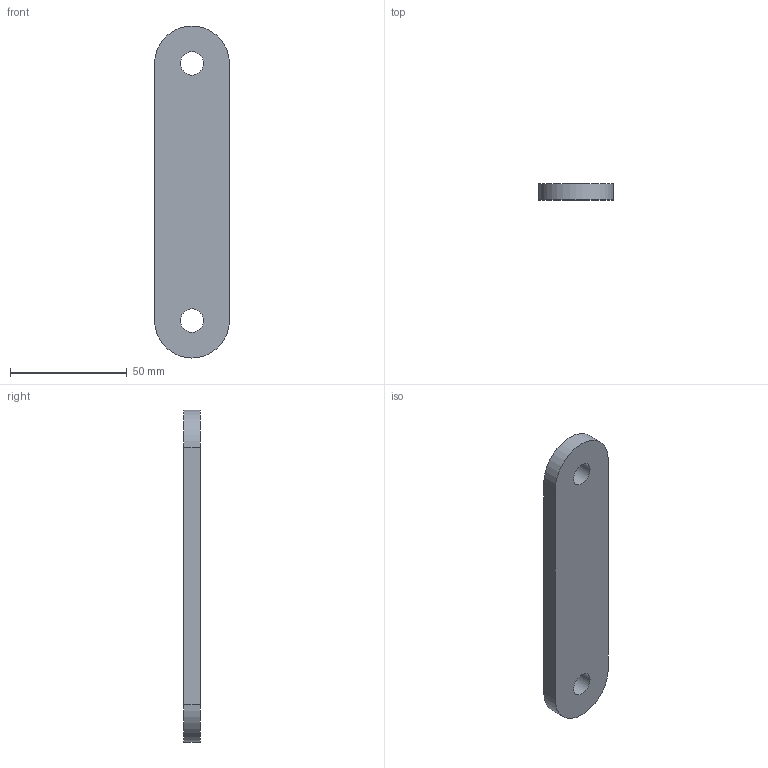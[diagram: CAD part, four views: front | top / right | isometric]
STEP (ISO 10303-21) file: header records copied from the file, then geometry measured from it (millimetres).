
FILE_DESCRIPTION(('Open CASCADE Model'),'2;1');
FILE_NAME('Q4-201','2026-10-08T13:25:55',('Author'),('Open CASCADE'), 'Open CASCADE STEP processor 8.0','build123d','Unknown');
FILE_SCHEMA(('AUTOMOTIVE_DESIGN { 1 0 10303 214 1 1 1 1 }'));
Length unit declared in the file: millimetre
Products named in the file (2): Q4-201
Assembly tree (1 placements, depth 2):
  Q4-201
    Q4-201
Bounding box: 32 x 7 x 142 mm (x, y, z)
Volume: 29170.2 mm3; surface area: 11017.9 mm2
Topology: 1 solids, 1 shells, 8 faces, 18 edges, 12 vertices
Faces by surface type: cylinder 4, plane 4
Full cylindrical faces by diameter (mm): 10 x2
Entity records: 500 total; most frequent: DIRECTION 82, CARTESIAN_POINT 76, LINE 38, VECTOR 38, ORIENTED_EDGE 36, PCURVE 36, DEFINITIONAL_REPRESENTATION 36, AXIS2_PLACEMENT_3D 18
